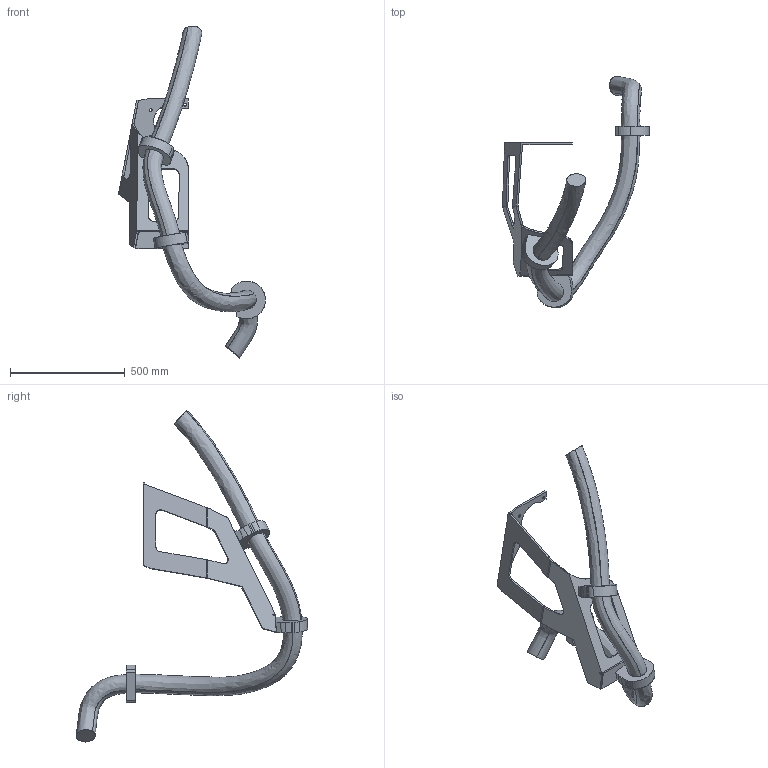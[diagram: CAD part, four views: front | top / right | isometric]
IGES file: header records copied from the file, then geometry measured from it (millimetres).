
Start section: SolidWorks IGES file using analytic representation for surfaces
Global section: file name: B:\DM\Robotics\SEROP_PROJ\Product Development\DevelopmentProjects\HD\3_Design PRMD\4_Struktur SAP o CAD\Lättmodeller\IRB8700-SW6_800-350\IRB8700-SW6_800-350_IRC5_IGES_j\IRB8700-SW6_800-350_IRC5_rev00_LINK2_CABLE.IGS; native system: SolidWorks 2014; preprocessor: SolidWorks 2014; author: sepehak; date: 150605.110411; units: millimetre
Bounding box: 639.97 x 1007.53 x 1445.34 mm (x, y, z)
Surface area: 1187555 mm2 (no closed solid volume)
Topology: 0 solids, 0 shells, 137 faces, 2296 edges, 2296 vertices
Faces by surface type: bspline 95, revolution 42
